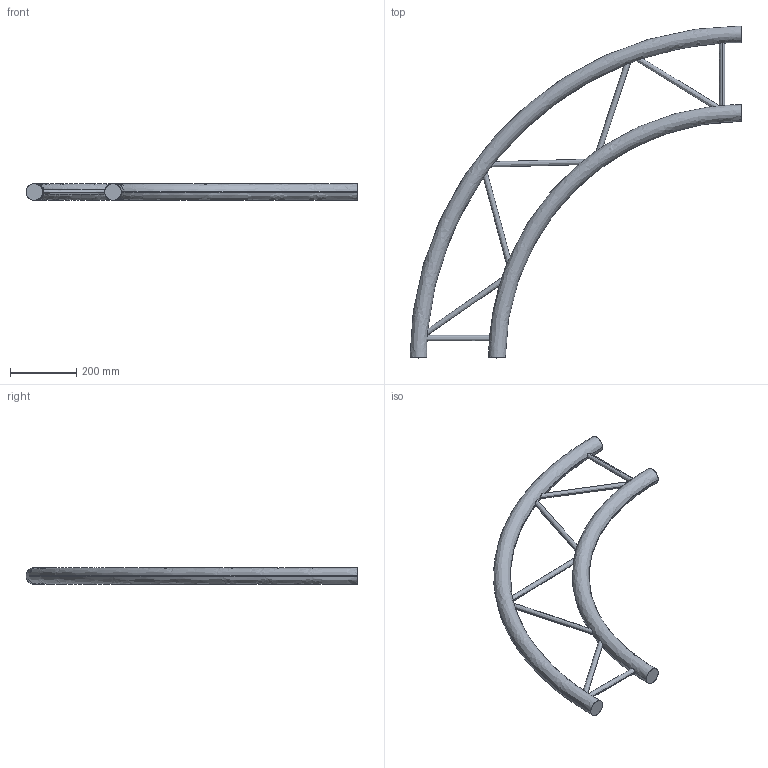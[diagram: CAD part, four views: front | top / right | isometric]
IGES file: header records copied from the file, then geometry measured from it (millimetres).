
Start section: SolidWorks IGES file using analytic representation for surfaces
Global section: file name: K:\BIBLIO\asd_biblio\EX290\Cercles\EXC290H\EXC29200H\EXC29200H.IGS; native system: SolidWorks 2009; preprocessor: SolidWorks 2009; author: des3; date: 091026.103336; units: millimetre
Bounding box: 1000 x 1000 x 50 mm (x, y, z)
Surface area: 513493.1 mm2 (no closed solid volume)
Topology: 0 solids, 0 shells, 22 faces, 1356 edges, 1356 vertices
Faces by surface type: revolution 14, bspline 8
